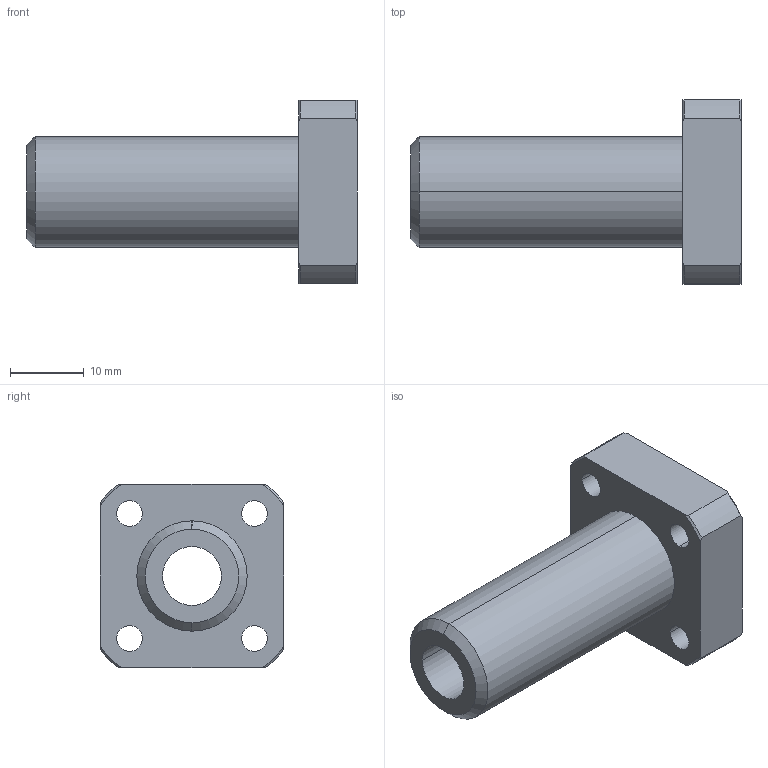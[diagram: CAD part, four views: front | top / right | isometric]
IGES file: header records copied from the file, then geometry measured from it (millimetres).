
Start section: 3D InterOp IGES (Version 21 0 1), Spatial Corp. Copyright (c) 1999-2007.
Global section: file name: DFPJ08.igs; native system: Spatial Corp.; preprocessor: 3D InterOp GENERIC/IGES 3.0; author: Noname; organization: Noname; date: 20220324.140622; units: millimetre
Bounding box: 45 x 25 x 25 mm (x, y, z)
Surface area: 5087.8 mm2 (no closed solid volume)
Topology: 0 solids, 0 shells, 45 faces, 224 edges, 224 vertices
Faces by surface type: revolution 34, extrusion 11
